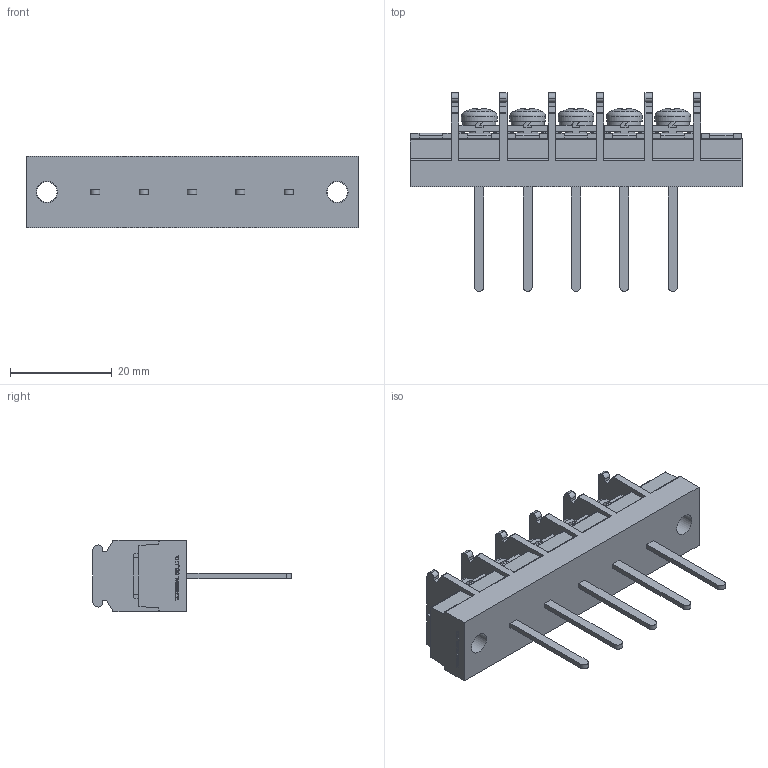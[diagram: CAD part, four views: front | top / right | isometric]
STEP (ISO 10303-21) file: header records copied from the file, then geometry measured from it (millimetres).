
FILE_DESCRIPTION(/* description */ ('Alibre Inc.'),/* implementation_level */ '2;1');
FILE_NAME(/* name */ 'export-45BF5B94-09B3-4B79-B096-BF78EF190DF4',/* time_stamp */ '2021-02-13T17:31:39+09:00',/* author */ (''),/* organization */ (''),/* preprocessor_version */ 'ST-DEVELOPER v17',/* originating_system */ 'Alibre',/* authorisation */ '');
FILE_SCHEMA (('CONFIG_CONTROL_DESIGN'));
Length unit declared in the file: millimetre
Bounding box: 65.2 x 39 x 14 mm (x, y, z)
Volume: 10428.2 mm3; surface area: 7396.3 mm2
Topology: 1 solids, 22 shells, 1034 faces, 2861 edges, 1885 vertices
Faces by surface type: plane 766, cylinder 124, bspline 104, cone 25, torus 10, sphere 5
Full cylindrical faces by diameter (mm): 4 x12, 4.2 x2, 7 x5
Entity records: 31456 total; most frequent: CARTESIAN_POINT 6690, ORIENTED_EDGE 5630, DIRECTION 3941, EDGE_CURVE 2815, VECTOR 2071, LINE 2071, VERTEX_POINT 1873, AXIS2_PLACEMENT_3D 1298
